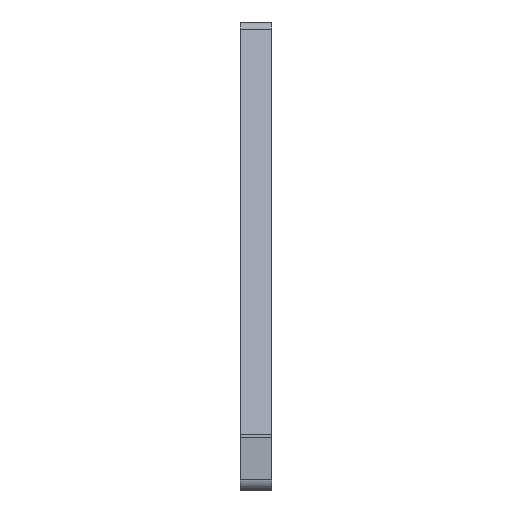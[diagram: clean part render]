
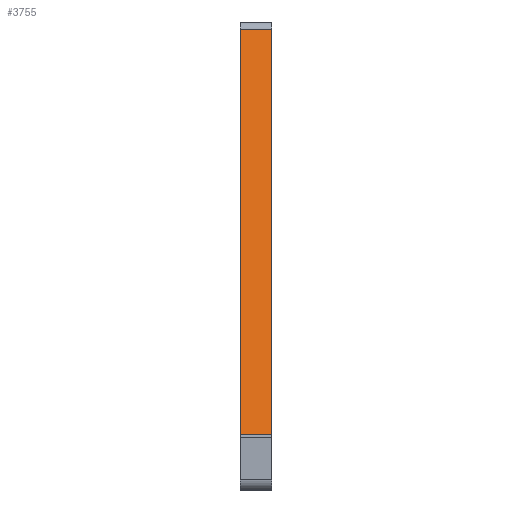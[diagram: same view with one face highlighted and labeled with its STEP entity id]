
A CAD part, left-side view. The second image highlights one B-rep face of the part: STEP entity #3755.
In plain terms, the highlighted planar face has unit normal (-0.97, 0, 0.242).
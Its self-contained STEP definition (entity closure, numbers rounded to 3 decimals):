
#137=PLANE('',#3995);
#307=FACE_OUTER_BOUND('',#502,.T.);
#502=EDGE_LOOP('',(#2794,#2795,#2796,#2797));
#778=LINE('',#5251,#1244);
#825=LINE('',#5388,#1291);
#826=LINE('',#5389,#1292);
#827=LINE('',#5390,#1293);
#1244=VECTOR('',#4262,10.);
#1291=VECTOR('',#4397,10.);
#1292=VECTOR('',#4398,10.);
#1293=VECTOR('',#4399,10.);
#1777=VERTEX_POINT('',#5248);
#1778=VERTEX_POINT('',#5250);
#1823=VERTEX_POINT('',#5386);
#1824=VERTEX_POINT('',#5387);
#2138=EDGE_CURVE('',#1777,#1778,#778,.T.);
#2206=EDGE_CURVE('',#1823,#1824,#825,.T.);
#2207=EDGE_CURVE('',#1823,#1778,#826,.T.);
#2208=EDGE_CURVE('',#1824,#1777,#827,.T.);
#2794=ORIENTED_EDGE('',*,*,#2206,.F.);
#2795=ORIENTED_EDGE('',*,*,#2207,.T.);
#2796=ORIENTED_EDGE('',*,*,#2138,.F.);
#2797=ORIENTED_EDGE('',*,*,#2208,.F.);
#3755=ADVANCED_FACE('',(#307),#137,.T.);
#3995=AXIS2_PLACEMENT_3D('',#5385,#4395,#4396);
#4262=DIRECTION('',(-0.243,0.,-0.97));
#4395=DIRECTION('center_axis',(-0.97,0.,0.243));
#4396=DIRECTION('ref_axis',(-0.243,0.,-0.97));
#4397=DIRECTION('',(0.243,0.,0.97));
#4398=DIRECTION('',(0.,-1.,0.));
#4399=DIRECTION('',(0.,-1.,0.));
#5248=CARTESIAN_POINT('',(-1.94,-6.,0.485));
#5250=CARTESIAN_POINT('',(-21.19,-6.,-76.515));
#5251=CARTESIAN_POINT('',(-21.19,-6.,-76.515));
#5385=CARTESIAN_POINT('Origin',(-1.94,0.,0.485));
#5386=CARTESIAN_POINT('',(-21.19,0.,-76.515));
#5387=CARTESIAN_POINT('',(-1.94,0.,0.485));
#5388=CARTESIAN_POINT('',(-21.19,0.,-76.515));
#5389=CARTESIAN_POINT('',(-21.19,0.,-76.515));
#5390=CARTESIAN_POINT('',(-1.94,0.,0.485));
